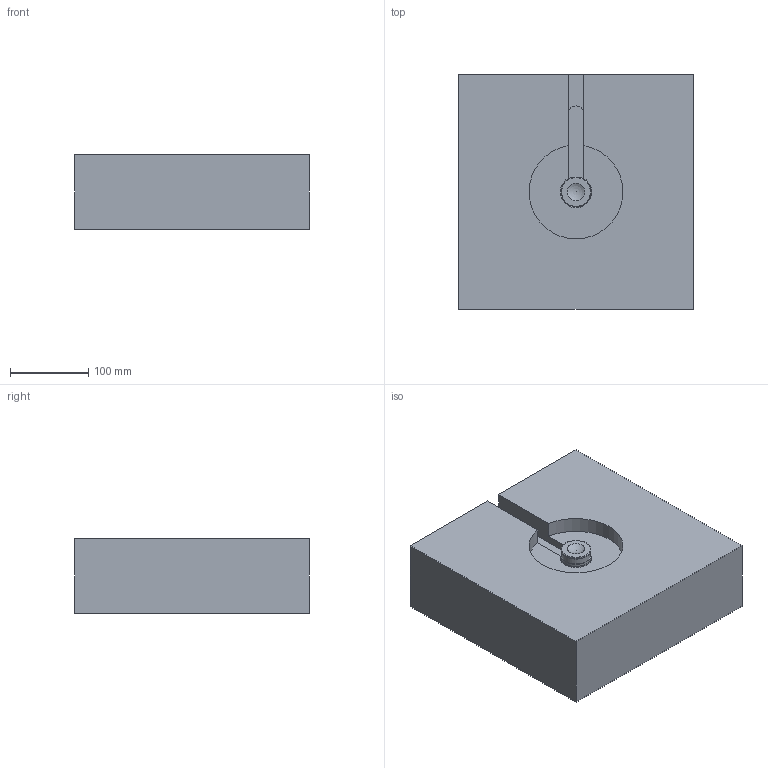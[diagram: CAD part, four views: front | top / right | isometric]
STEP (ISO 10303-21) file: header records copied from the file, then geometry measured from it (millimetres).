
FILE_DESCRIPTION( ( 'STEP AP214' ), '1' );
FILE_NAME( 'Z:/PROIECTE_YUDO_2009_dupa_1.07.2009/PROIECTE YUDO 3D 01.07.2009/BIS/YUEU09-BIS18TLC075/YUEU09-BIS18TLC075.step', '2009-12-04T09:27:38', ( ' ' ), ( ' ' ), 'XStep 1.0', ' ', ' ' );
FILE_SCHEMA( ( 'automotive_design' ) );
Length unit declared in the file: millimetre
Products named in the file (6): 1; 2; 3; 4; 5; 6
Bounding box: 300 x 300 x 95 mm (x, y, z)
Volume: 8263513.3 mm3; surface area: 330283.9 mm2
Topology: 6 solids, 6 shells, 100 faces, 229 edges, 149 vertices
Faces by surface type: plane 39, cylinder 35, cone 15, torus 8, bspline 2, sphere 1
Full cylindrical faces by diameter (mm): 1.7 x2, 7.8 x1, 8 x2, 8.8 x1, 10.4 x1, 12 x1, 12.8 x1, 14 x1, 17 x1, 18 x2, 18.2 x1, 18.25 x1, 24 x1, 28.62 x1, 32 x1, 37 x1, 38 x2
Entity records: 3593 total; most frequent: CARTESIAN_POINT 565, DIRECTION 476, ORIENTED_EDGE 362, AXIS2_PLACEMENT_3D 203, EDGE_CURVE 181, EDGE_LOOP 159, VERTEX_POINT 144, FACE_OUTER_BOUND 131
